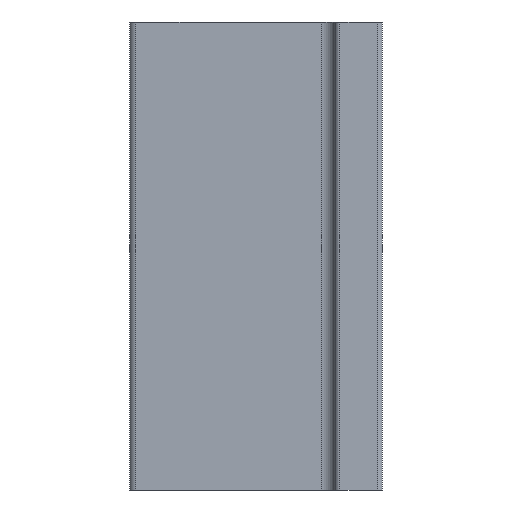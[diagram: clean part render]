
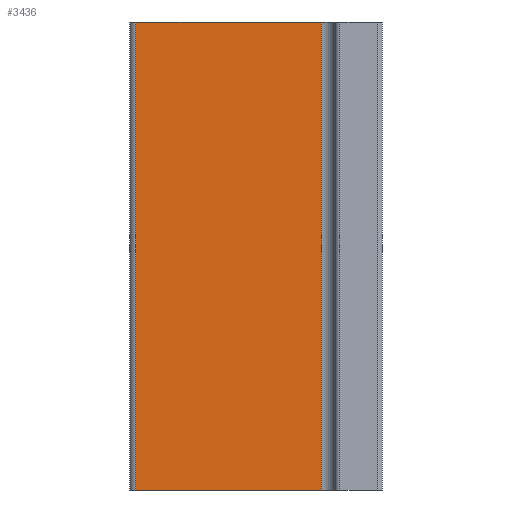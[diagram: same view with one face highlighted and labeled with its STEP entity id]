
A CAD part, left-side view. The second image highlights one B-rep face of the part: STEP entity #3436.
In plain terms, the highlighted planar face has unit normal (-1, 0.033, 0).
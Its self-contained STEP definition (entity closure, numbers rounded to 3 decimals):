
#4 = VERTEX_POINT ( 'NONE', #948 ) ;
#264 = ORIENTED_EDGE ( 'NONE', *, *, #3008, .T. ) ;
#305 = EDGE_CURVE ( 'NONE', #510, #884, #2867, .T. ) ;
#410 = EDGE_CURVE ( 'NONE', #884, #4, #3388, .T. ) ;
#444 = EDGE_LOOP ( 'NONE', ( #264, #882, #2384, #1353 ) ) ;
#510 = VERTEX_POINT ( 'NONE', #1190 ) ;
#882 = ORIENTED_EDGE ( 'NONE', *, *, #410, .F. ) ;
#884 = VERTEX_POINT ( 'NONE', #2666 ) ;
#948 = CARTESIAN_POINT ( 'NONE',  ( -73.349, 6.547, 0. ) ) ;
#1190 = CARTESIAN_POINT ( 'NONE',  ( -72.7, 26.323, 50. ) ) ;
#1327 = LINE ( 'NONE', #1328, #1336 ) ;
#1328 = CARTESIAN_POINT ( 'NONE',  ( -73.349, 6.547, 0. ) ) ;
#1336 = VECTOR ( 'NONE', #1337, 1000. ) ;
#1337 = DIRECTION ( 'NONE',  ( -0.033, -0.999, 0. ) ) ;
#1353 = ORIENTED_EDGE ( 'NONE', *, *, #1631, .T. ) ;
#1602 = FACE_OUTER_BOUND ( 'NONE', #444, .T. ) ;
#1603 = PLANE ( 'NONE',  #1604 ) ;
#1604 = AXIS2_PLACEMENT_3D ( 'NONE', #1605, #1606, #1607 ) ;
#1605 = CARTESIAN_POINT ( 'NONE',  ( -73.349, 6.547, 50. ) ) ;
#1606 = DIRECTION ( 'NONE',  ( 0.999, -0.033, 0. ) ) ;
#1607 = DIRECTION ( 'NONE',  ( 0.033, 0.999, 0. ) ) ;
#1631 = EDGE_CURVE ( 'NONE', #510, #3734, #3157, .T. ) ;
#2094 = CARTESIAN_POINT ( 'NONE',  ( -72.7, 26.323, 0. ) ) ;
#2384 = ORIENTED_EDGE ( 'NONE', *, *, #305, .F. ) ;
#2666 = CARTESIAN_POINT ( 'NONE',  ( -73.349, 6.547, 50. ) ) ;
#2867 = LINE ( 'NONE', #2868, #2869 ) ;
#2868 = CARTESIAN_POINT ( 'NONE',  ( -73.349, 6.547, 50. ) ) ;
#2869 = VECTOR ( 'NONE', #2870, 1000. ) ;
#2870 = DIRECTION ( 'NONE',  ( -0.033, -0.999, 0. ) ) ;
#3008 = EDGE_CURVE ( 'NONE', #3734, #4, #1327, .T. ) ;
#3157 = LINE ( 'NONE', #3158, #3159 ) ;
#3158 = CARTESIAN_POINT ( 'NONE',  ( -72.7, 26.323, 50. ) ) ;
#3159 = VECTOR ( 'NONE', #3160, 1000. ) ;
#3160 = DIRECTION ( 'NONE',  ( 0., 0., -1. ) ) ;
#3388 = LINE ( 'NONE', #3389, #3390 ) ;
#3389 = CARTESIAN_POINT ( 'NONE',  ( -73.349, 6.547, 50. ) ) ;
#3390 = VECTOR ( 'NONE', #3391, 1000. ) ;
#3391 = DIRECTION ( 'NONE',  ( 0., 0., -1. ) ) ;
#3436 = ADVANCED_FACE ( 'NONE', ( #1602 ), #1603, .F. ) ;
#3734 = VERTEX_POINT ( 'NONE', #2094 ) ;
